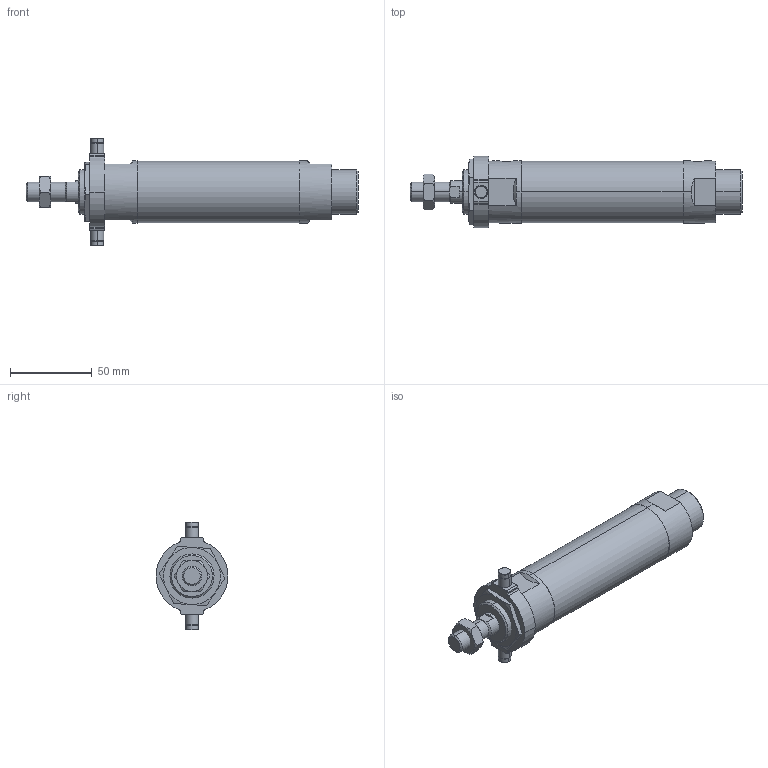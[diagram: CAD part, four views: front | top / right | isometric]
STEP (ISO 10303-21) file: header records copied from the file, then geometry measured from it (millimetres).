
FILE_DESCRIPTION (( 'STEP AP203' ), '1' );
FILE_NAME ('J#2-32-50-T.STEP', '2016-03-08T07:33:39', ( '' ), ( '' ), 'SwSTEP 2.0', 'SolidWorks 2014', '' );
FILE_SCHEMA (( 'CONFIG_CONTROL_DESIGN' ));
Length unit declared in the file: millimetre
Products named in the file (5): J#2-32-T; J#2-32-50; J#2-32-50-T
Assembly tree (4 placements, depth 2):
  J#2-32-50-T
    J#2-32-50
    (unnamed)
    (unnamed)
    J#2-32-T
Bounding box: 203 x 44 x 66 mm (x, y, z)
Volume: 186382.3 mm3; surface area: 31097 mm2
Topology: 4 solids, 4 shells, 133 faces, 303 edges, 183 vertices
Faces by surface type: cylinder 43, plane 43, torus 24, cone 23
Entity records: 4649 total; most frequent: CARTESIAN_POINT 1181, DIRECTION 640, ORIENTED_EDGE 598, EDGE_CURVE 299, AXIS2_PLACEMENT_3D 264, VERTEX_POINT 183, EDGE_LOOP 148, ADVANCED_FACE 133
